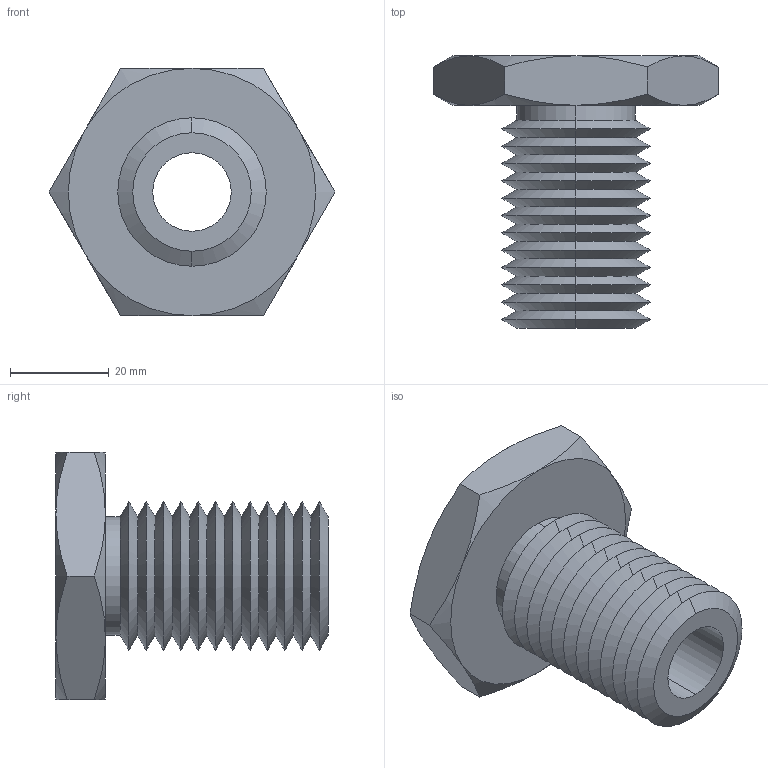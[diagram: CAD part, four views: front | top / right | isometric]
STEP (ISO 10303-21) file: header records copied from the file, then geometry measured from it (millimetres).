
FILE_DESCRIPTION (( 'STEP AP203' ), '1' );
FILE_NAME ('63302.W0030_0,62 UNC-11.step', '2013-12-08T11:07:50', ( 'User' ), ( '' ), 'SwSTEP 2.0', 'SolidWorks 2009', '' );
FILE_SCHEMA (( 'CONFIG_CONTROL_DESIGN' ));
Length unit declared in the file: millimetre
Products named in the file (1): 63302.W0030_0,62 UNC-11
Bounding box: 57.73 x 55 x 50 mm (x, y, z)
Volume: 35783.2 mm3; surface area: 15489 mm2
Topology: 1 solids, 1 shells, 75 faces, 154 edges, 82 vertices
Faces by surface type: cone 62, plane 9, cylinder 4
Entity records: 2139 total; most frequent: CARTESIAN_POINT 496, DIRECTION 352, ORIENTED_EDGE 308, EDGE_CURVE 154, AXIS2_PLACEMENT_3D 146, VERTEX_POINT 82, EDGE_LOOP 78, ADVANCED_FACE 75
